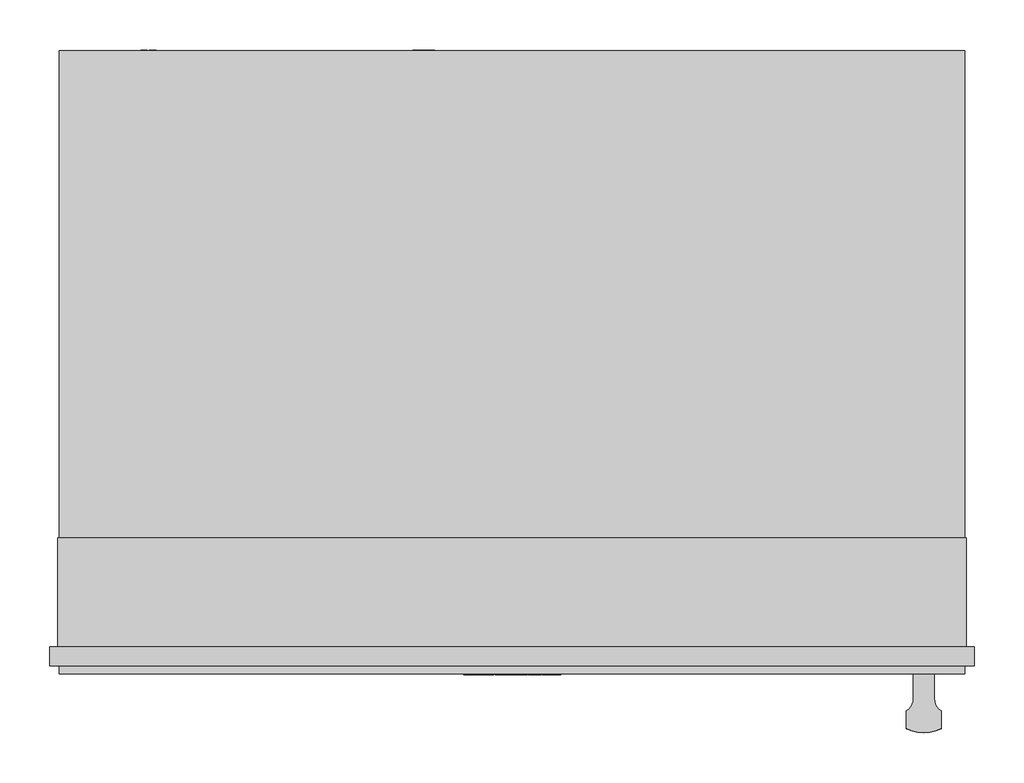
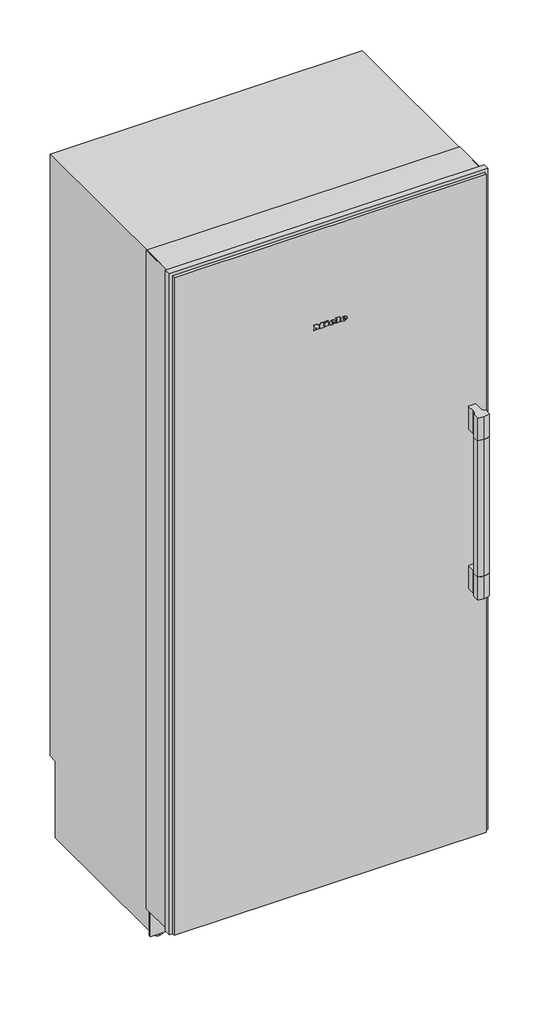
# Not in any storey: 1 proxy.
"""IFC4 building model written with IfcOpenShell, lengths in millimetres."""

import ifcopenshell
import ifcopenshell.guid

model = None  # the IFC model being written
_history = None  # IfcOwnerHistory: only IFC2X3 demands one
_inside = {}  # id of a spatial element -> (the spatial element, [elements in it])
_under = {}  # id of a project, library or spatial element -> (it, [spatial elements below it])
_declared = {}  # id of a project -> (the project, [libraries it declares])
_typed = {}  # id of a type object -> (the type object, [elements of that type])
_made_of = {}  # id of a material, layer set ... -> (it, [elements and type objects made of it])


def new_model(schema):
    """Start an empty IFC model of exactly this schema.

    Asked for "IFC4X3", IfcOpenShell would pick the latest addendum, in which some entities
    have other attributes; the version numbers below select the first issue.
    IFC2X3 requires an IfcOwnerHistory on every rooted entity: one is made here for all.
    """
    global model, _history
    if schema == "IFC4X3":
        model = ifcopenshell.file(schema_version=(4, 3, 0, 0))
    else:
        model = ifcopenshell.file(schema=schema)
    _inside.clear()
    _under.clear()
    _declared.clear()
    _typed.clear()
    _made_of.clear()
    _history = None
    if model.schema == "IFC2X3":
        org = make("IfcOrganization", Name="unknown")
        user = make(
            "IfcPersonAndOrganization",
            ThePerson=make("IfcPerson", FamilyName="unknown"),
            TheOrganization=org,
        )
        app = make(
            "IfcApplication",
            ApplicationDeveloper=org,
            Version="unknown",
            ApplicationFullName="unknown",
            ApplicationIdentifier="unknown",
        )
        _history = make(
            "IfcOwnerHistory",
            OwningUser=user,
            OwningApplication=app,
            ChangeAction="ADDED",
            CreationDate=0,
        )
    return model


def make(cls, **values):
    """One entity of the class cls with the attributes given. An attribute that is None is left unset."""
    return model.create_entity(
        cls, **{name: value for name, value in values.items() if value is not None}
    )


def rooted(cls, **values):
    """An entity with a GlobalId (a new one), such as an element, a storey or a relation."""
    return make(cls, GlobalId=ifcopenshell.guid.new(), OwnerHistory=_history, **values)


def si_unit(unit_type, name, prefix=None):
    """IfcSIUnit, for example si_unit("LENGTHUNIT", "METRE", prefix="MILLI")."""
    return make("IfcSIUnit", UnitType=unit_type, Prefix=prefix, Name=name)


def assignment(units):
    """IfcUnitAssignment: the units of a project."""
    return None if units is None else make("IfcUnitAssignment", Units=units)


def point(xyz):
    """IfcCartesianPoint."""
    return None if xyz is None else make("IfcCartesianPoint", Coordinates=xyz)


def direction(xyz):
    """IfcDirection."""
    return None if xyz is None else make("IfcDirection", DirectionRatios=xyz)


def frame(location, z_axis=None, x_axis=None):
    """IfcAxis2Placement3D, a coordinate frame: its origin and axes. An axis left out is left unset."""
    return make(
        "IfcAxis2Placement3D",
        Location=point(location),
        Axis=direction(z_axis),
        RefDirection=direction(x_axis),
    )


def frame_2d(location, x_axis=None):
    """IfcAxis2Placement2D, a coordinate frame in the plane: its origin and x axis."""
    return make(
        "IfcAxis2Placement2D", Location=point(location), RefDirection=direction(x_axis)
    )


def origin():
    """The frame at (0, 0, 0) with its axes left unset."""
    return frame((0.0, 0.0, 0.0))


def place(relative_to, where):
    """IfcLocalPlacement: puts the frame where relative to a parent placement (None: the world)."""
    return make(
        "IfcLocalPlacement", PlacementRelTo=relative_to, RelativePlacement=where
    )


def context(
    kind, dimensions, precision=None, world=None, true_north=None, identifier=None
):
    """IfcGeometricRepresentationContext, for example the 3D "Model" context."""
    return make(
        "IfcGeometricRepresentationContext",
        ContextIdentifier=identifier,
        ContextType=kind,
        CoordinateSpaceDimension=dimensions,
        Precision=precision,
        WorldCoordinateSystem=world,
        TrueNorth=true_north,
    )


def project(units=None, contexts=None):
    """IfcProject with its units and contexts."""
    return rooted(
        "IfcProject",
        Name="project",
        RepresentationContexts=contexts,
        UnitsInContext=assignment(units),
    )


def spatial(cls, under=None, at=None, **own):
    """A site, building, storey or space (cls), placed at a placement, below another one or the project."""
    s = rooted(cls, ObjectPlacement=at, **own)
    if under is not None:
        _under.setdefault(under.id(), (under, []))[1].append(s)
    return s


def polyline(points):
    """IfcPolyline through the points."""
    return make("IfcPolyline", Points=[point(p) for p in points])


def circle_curve(where, radius):
    """IfcCircle in the frame where."""
    return make("IfcCircle", Position=where, Radius=radius)


def ellipse_curve(where, semi_axis1, semi_axis2):
    """IfcEllipse in the frame where."""
    return make(
        "IfcEllipse", Position=where, SemiAxis1=semi_axis1, SemiAxis2=semi_axis2
    )


def trimmed(basis, trim1, trim2, sense, master):
    """IfcTrimmedCurve: the piece of a basis curve between two trims."""
    return make(
        "IfcTrimmedCurve",
        BasisCurve=basis,
        Trim1=trim1,
        Trim2=trim2,
        SenseAgreement=sense,
        MasterRepresentation=master,
    )


def segment(curve, same_sense, transition):
    """IfcCompositeCurveSegment."""
    return make(
        "IfcCompositeCurveSegment",
        Transition=transition,
        SameSense=same_sense,
        ParentCurve=curve,
    )


def composite_curve(segments, self_intersect=None):
    """IfcCompositeCurve: segments joined end to end."""
    return make("IfcCompositeCurve", Segments=segments, SelfIntersect=self_intersect)


def outline(outer, holes=None, kind="AREA"):
    """IfcArbitraryClosedProfileDef: a profile drawn as a closed curve; with holes, ...WithVoids."""
    if holes is None:
        return make("IfcArbitraryClosedProfileDef", ProfileType=kind, OuterCurve=outer)
    return make(
        "IfcArbitraryProfileDefWithVoids",
        ProfileType=kind,
        OuterCurve=outer,
        InnerCurves=holes,
    )


def extrude(swept, where, along, depth):
    """IfcExtrudedAreaSolid: the profile swept, set in the frame where, extruded along a direction by depth."""
    return make(
        "IfcExtrudedAreaSolid",
        SweptArea=swept,
        Position=where,
        ExtrudedDirection=direction(along),
        Depth=depth,
    )


def faces_of(points, faces, orient=None, outer=None):
    """IfcFace entities. A face is a list of loops; a loop is a list of indices into points, from 0.

    orient and outer hold one flag for each loop. By default every Orientation is true, the
    first loop of a face is its IfcFaceOuterBound and the others are IfcFaceBound.
    """
    made = []
    for i, loops in enumerate(faces):
        bounds = []
        for j, loop in enumerate(loops):
            is_outer = j == 0 if outer is None else outer[i][j]
            bounds.append(
                make(
                    "IfcFaceOuterBound" if is_outer else "IfcFaceBound",
                    Bound=make("IfcPolyLoop", Polygon=[points[k] for k in loop]),
                    Orientation=True if orient is None else orient[i][j],
                )
            )
        made.append(make("IfcFace", Bounds=bounds))
    return made


def faceted_brep(points, faces, orient=None, outer=None, voids=None):
    """IfcFacetedBrep: a solid bounded by flat faces; with voids (closed shells), ...WithVoids."""
    shared = [point(p) for p in points]
    hull = make("IfcClosedShell", CfsFaces=faces_of(shared, faces, orient, outer))
    if voids is None:
        return make("IfcFacetedBrep", Outer=hull)
    return make(
        "IfcFacetedBrepWithVoids",
        Outer=hull,
        Voids=[
            make(cls, CfsFaces=faces_of(shared, fs, o, b)) for cls, fs, o, b in voids
        ],
    )


def shape(context_of_items, identifier, shape_type, items):
    """IfcShapeRepresentation: the items that make up one representation, for example the "Body"."""
    return make(
        "IfcShapeRepresentation",
        ContextOfItems=context_of_items,
        RepresentationIdentifier=identifier,
        RepresentationType=shape_type,
        Items=items,
    )


def source(mapping_origin, context_of_items, identifier, shape_type, items):
    """IfcRepresentationMap: a shape defined once, which mapped items show again and again."""
    return make(
        "IfcRepresentationMap",
        MappingOrigin=mapping_origin,
        MappedRepresentation=shape(context_of_items, identifier, shape_type, items),
    )


def transform(
    local_origin,
    x_axis=None,
    y_axis=None,
    z_axis=None,
    scale=None,
    scale2=None,
    scale3=None,
    uniform=True,
):
    """IfcCartesianTransformationOperator3D, or its non-uniform kind. x_axis, y_axis, z_axis: its Axis1, 2, 3."""
    if uniform:
        return make(
            "IfcCartesianTransformationOperator3D",
            Axis1=direction(x_axis),
            Axis2=direction(y_axis),
            LocalOrigin=point(local_origin),
            Scale=scale,
            Axis3=direction(z_axis),
        )
    return make(
        "IfcCartesianTransformationOperator3DnonUniform",
        Axis1=direction(x_axis),
        Axis2=direction(y_axis),
        LocalOrigin=point(local_origin),
        Scale=scale,
        Axis3=direction(z_axis),
        Scale2=scale2,
        Scale3=scale3,
    )


def mapped(mapping_source, mapping_target):
    """IfcMappedItem: shows the shape of a source again, moved by a transform."""
    return make(
        "IfcMappedItem", MappingSource=mapping_source, MappingTarget=mapping_target
    )


def made_of(thing, what):
    """Note that an element or type object is made of a material, layer set ...; save() writes the relation."""
    if what is not None:
        _made_of.setdefault(what.id(), (what, []))[1].append(thing)
    return thing


def element(
    cls,
    number,
    at=None,
    inside=None,
    cuts=None,
    type_object=None,
    material=None,
    context=None,
    identifier="Body",
    shape_type=None,
    held_by="IfcProductDefinitionShape",
    body=None,
    shapes=None,
    **own,
):
    """One element of the class cls, such as IfcWall. Its Tag is "e" and its number.

    at: its placement. inside: the storey or other place that contains it. cuts: it is an
    opening in that element (IfcRelVoidsElement). A single representation is given by context,
    identifier, shape_type and body (its items); several are given by shapes. held_by: the class
    of the entity that holds the representations. save() writes the other relations.
    """
    e = rooted(cls, Tag="e%d" % number, ObjectPlacement=at, **own)
    if body is not None:
        shapes = [shape(context, identifier, shape_type, body)]
    if shapes is not None:
        e.Representation = make(held_by, Representations=shapes)
    if inside is not None:
        _inside.setdefault(inside.id(), (inside, []))[1].append(e)
    if cuts is not None:
        rooted(
            "IfcRelVoidsElement", RelatingBuildingElement=cuts, RelatedOpeningElement=e
        )
    if type_object is not None:
        _typed.setdefault(type_object.id(), (type_object, []))[1].append(e)
    return made_of(e, material)


def aggregate(whole, parts):
    """IfcRelAggregates: a whole, such as a stair, and the parts it consists of."""
    return rooted("IfcRelAggregates", RelatingObject=whole, RelatedObjects=parts)


def save(model, path):
    """Write the relations noted so far, then the file.

    IfcRelAggregates (storeys below a building ...), IfcRelContainedInSpatialStructure (elements
    in a storey), IfcRelDefinesByType, IfcRelAssociatesMaterial and IfcRelDeclares: one each for
    every whole, place, type object, material and project.
    """
    for whole, parts in _under.values():
        aggregate(whole, parts)
    for where, things in _inside.values():
        rooted(
            "IfcRelContainedInSpatialStructure",
            RelatedElements=things,
            RelatingStructure=where,
        )
    for kind, things in _typed.values():
        rooted("IfcRelDefinesByType", RelatedObjects=things, RelatingType=kind)
    for what, things in _made_of.values():
        rooted("IfcRelAssociatesMaterial", RelatedObjects=things, RelatingMaterial=what)
    for by, libraries in _declared.values():
        rooted("IfcRelDeclares", RelatingContext=by, RelatedDefinitions=libraries)
    model.write(path)


def plane_surface(at):
    """IfcPlane: the flat surface through the origin of the frame at, square to its z axis."""
    return make("IfcPlane", Position=at)


def cylinder_surface(at, radius):
    """IfcCylindricalSurface: all points at the distance radius from the z axis of the frame at."""
    return make("IfcCylindricalSurface", Position=at, Radius=radius)


def revolved_surface(curve, axis_point, axis_direction):
    """IfcSurfaceOfRevolution: the curve turned about the line through axis_point along axis_direction."""
    return make(
        "IfcSurfaceOfRevolution",
        SweptCurve=make("IfcArbitraryOpenProfileDef", ProfileType="CURVE", Curve=curve),
        AxisPosition=make("IfcAxis1Placement", Location=point(axis_point), Axis=direction(axis_direction)),
    )


def extruded_surface(curve, direction_of_extrusion, depth):
    """IfcSurfaceOfLinearExtrusion: the curve pushed along a direction by depth."""
    return make(
        "IfcSurfaceOfLinearExtrusion",
        SweptCurve=make("IfcArbitraryOpenProfileDef", ProfileType="CURVE", Curve=curve),
        ExtrudedDirection=direction(direction_of_extrusion),
        Depth=depth,
    )


def advanced_brep(points, edges, surfaces, faces):
    """IfcAdvancedBrep: a solid bounded by faces that lie on surfaces and meet in shared edges.

    An edge is (start, end): straight between two places in points (the first is 0);
    or (start, end, curve); or (start, end, curve, False) where it runs against its curve.
    A face is (place in surfaces, loops), or (place, loops, False) where it looks against
    its surface's normal. A loop lists edges by number (the first is 1), with a minus sign
    where the edge is run from its end to its start. The first loop is the outer one.
    """
    corners = [point(p) for p in points]
    vertices = [make("IfcVertexPoint", VertexGeometry=c) for c in corners]
    made = []
    for start, end, *more in edges:
        made.append(
            make(
                "IfcEdgeCurve",
                EdgeStart=vertices[start],
                EdgeEnd=vertices[end],
                EdgeGeometry=more[0] if more else make("IfcPolyline", Points=[corners[start], corners[end]]),
                SameSense=more[1] if len(more) > 1 else True,
            )
        )
    hull = []
    for where, loops, *sense in faces:
        bounds = []
        for j, loop in enumerate(loops):
            ring = [make("IfcOrientedEdge", EdgeElement=made[abs(k) - 1], Orientation=k > 0) for k in loop]
            bounds.append(
                make(
                    "IfcFaceOuterBound" if j == 0 else "IfcFaceBound",
                    Bound=make("IfcEdgeLoop", EdgeList=ring),
                    Orientation=True,
                )
            )
        hull.append(make("IfcAdvancedFace", Bounds=bounds, FaceSurface=surfaces[where], SameSense=sense[0] if sense else True))
    return make("IfcAdvancedBrep", Outer=make("IfcClosedShell", CfsFaces=hull))


def specialty_equipment_59125f97(model_context):
    return source(origin(), model_context, "Body", "SolidModel", [
        extrude(outline(polyline([(-443.0, 68.0), (443.0, 68.0), (443.0, 21.0), (-443.0, 21.0), (-443.0, 68.0)])), frame((0.0, 0.0, 265.0), z_axis=(0.0, 0.0, 1.0), x_axis=(1.0, 0.0, 0.0)), (0.0, 0.0, 1.0), 1771.0),
        extrude(outline(polyline([(-289.0, 50.0), (289.0, 50.0), (289.0, 21.0), (-289.0, 21.0), (-289.0, 50.0)])), frame((0.0, 0.0, 2036.0), z_axis=(0.0, 0.0, 1.0), x_axis=(1.0, 0.0, 0.0)), (0.0, 0.0, 1.0), 56.0),
        extrude(outline(polyline([(265.0, 21.0), (265.0, 0.0), (265.0, -21.0), (224.0, -21.0), (224.0, -6.5), (99.0, -6.5), (99.0, 0.0), (99.0, 6.5), (224.0, 6.5), (224.0, 21.0), (265.0, 21.0)])), frame((0.0, 21.0, 0.0), z_axis=(0.0, 1.0, 0.0), x_axis=(0.0, 0.0, 1.0)), (0.0, 0.0, 1.0), 54.0),
        extrude(outline(composite_curve([segment(trimmed(circle_curve(frame_2d((386.9285714, -24.4390599)), 15.5714286), [point((395.5, -37.4390599))], [point((402.5, -24.4390599))], True, "CARTESIAN"), True, "CONTINUOUS"), segment(polyline([(402.5, -24.4390599), (402.5, 0.0), (423.5, 0.0), (423.5, -24.4390599)]), True, "CONTINUOUS"), segment(trimmed(circle_curve(frame_2d((439.0714286, -24.4390599)), 15.5714286), [point((423.5, -24.4390599))], [point((430.5, -37.4390599))], True, "CARTESIAN"), True, "CONTINUOUS"), segment(polyline([(430.5, -37.4390599), (430.5, -55.0)]), True, "CONTINUOUS"), segment(trimmed(circle_curve(frame_2d((413.0, -18.71875)), 40.28125), [point((430.5, -55.0))], [point((413.0, -59.0))], False, "CARTESIAN"), True, "CONTINUOUS"), segment(trimmed(circle_curve(frame_2d((413.0, -18.71875)), 40.28125), [point((413.0, -59.0))], [point((395.5, -55.0))], False, "CARTESIAN"), True, "CONTINUOUS"), segment(polyline([(395.5, -55.0), (395.5, -37.4390599)]), True, "CONTINUOUS")], self_intersect=False)), frame((0.0, 0.0, 858.0), z_axis=(0.0, 0.0, 1.0), x_axis=(1.0, 0.0, 0.0)), (0.0, 0.0, 1.0), 70.0),
        extrude(outline(composite_curve([segment(trimmed(circle_curve(frame_2d((386.9285714, -24.4390599)), 15.5714286), [point((395.5, -37.4390599))], [point((402.5, -24.4390599))], True, "CARTESIAN"), True, "CONTINUOUS"), segment(polyline([(402.5, -24.4390599), (402.5, 0.0), (423.5, 0.0), (423.5, -24.4390599)]), True, "CONTINUOUS"), segment(trimmed(circle_curve(frame_2d((439.0714286, -24.4390599)), 15.5714286), [point((423.5, -24.4390599))], [point((430.5, -37.4390599))], True, "CARTESIAN"), True, "CONTINUOUS"), segment(polyline([(430.5, -37.4390599), (430.5, -55.0)]), True, "CONTINUOUS"), segment(trimmed(circle_curve(frame_2d((413.0, -18.71875)), 40.28125), [point((430.5, -55.0))], [point((413.0, -59.0))], False, "CARTESIAN"), True, "CONTINUOUS"), segment(trimmed(circle_curve(frame_2d((413.0, -18.71875)), 40.28125), [point((413.0, -59.0))], [point((395.5, -55.0))], False, "CARTESIAN"), True, "CONTINUOUS"), segment(polyline([(395.5, -55.0), (395.5, -37.4390599)]), True, "CONTINUOUS")], self_intersect=False)), frame((0.0, 0.0, 1348.0), z_axis=(0.0, 0.0, 1.0), x_axis=(1.0, 0.0, 0.0)), (0.0, 0.0, 1.0), 70.0),
        extrude(outline(composite_curve([segment(trimmed(circle_curve(frame_2d((386.9285714, -24.4390599)), 15.5714286), [point((395.5, -37.4390599))], [point((397.3599688, -36.0))], True, "CARTESIAN"), True, "CONTINUOUS"), segment(polyline([(397.3599688, -36.0), (428.6400312, -36.0)]), True, "CONTINUOUS"), segment(trimmed(circle_curve(frame_2d((439.0714286, -24.4390599)), 15.5714286), [point((428.6400312, -36.0))], [point((430.5, -37.4390599))], True, "CARTESIAN"), True, "CONTINUOUS"), segment(polyline([(430.5, -37.4390599), (430.5, -55.0)]), True, "CONTINUOUS"), segment(trimmed(circle_curve(frame_2d((413.0, -18.71875)), 40.28125), [point((430.5, -55.0))], [point((413.0, -59.0))], False, "CARTESIAN"), True, "CONTINUOUS"), segment(trimmed(circle_curve(frame_2d((413.0, -18.71875)), 40.28125), [point((413.0, -59.0))], [point((395.5, -55.0))], False, "CARTESIAN"), True, "CONTINUOUS"), segment(polyline([(395.5, -55.0), (395.5, -37.4390599)]), True, "CONTINUOUS")], self_intersect=False)), frame((0.0, 0.0, 928.0), z_axis=(0.0, 0.0, 1.0), x_axis=(1.0, 0.0, 0.0)), (0.0, 0.0, 1.0), 420.0),
        extrude(outline(polyline([(-454.0, 21.0), (454.0, 21.0), (454.0, 0.0), (-454.0, 0.0), (-454.0, 21.0)])), frame((0.0, 0.0, 90.0), z_axis=(0.0, 0.0, 1.0), x_axis=(1.0, 0.0, 0.0)), (0.0, 0.0, 1.0), 2023.0),
        advanced_brep(
        [(38.22, -1.0, 1812.792), (38.22, -1.0, 1814.408), (48.924, -1.0, 1814.408), (30.3, -1.0, 1814.408), (34.7, -1.0, 1809.0), (48.652, -1.0, 1812.792), (43.82, -1.0, 1812.792), (40.012, -1.0, 1811.0), (38.22, -1.0, 1816.456), (38.22, -1.0, 1818.2), (40.956, -1.0, 1818.2), (40.956, -1.0, 1816.456), (38.22, 0.0, 1812.792), (40.012, 0.0, 1811.0), (43.82, 0.0, 1812.792), (48.652, 0.0, 1812.792), (34.7, 0.0, 1809.0), (30.3, 0.0, 1814.408), (48.924, 0.0, 1814.408), (38.22, 0.0, 1814.408), (38.22, 0.0, 1816.456), (40.956, 0.0, 1816.456), (40.956, 0.0, 1818.2), (38.22, 0.0, 1818.2)],
        [
            (0, 1),
            (1, 2),
            (2, 3, ellipse_curve(frame((39.612, -1.0, 1814.408), z_axis=(0.0, -1.0, 0.0), x_axis=(-1.0, 0.0, 0.0)), 9.312, 7.696)),
            (3, 4, circle_curve(frame((36.4920873, -1.0, 1814.952), z_axis=(0.0, -1.0, 0.0), x_axis=(0.0, 0.0, -1.0)), 6.2159376)),
            (4, 5, circle_curve(frame((39.4255872, -1.0, 1819.176), z_axis=(0.0, -1.0, 0.0), x_axis=(0.0, 0.0, -1.0)), 11.2197215)),
            (5, 6),
            (6, 7, circle_curve(frame((40.7941176, -1.0, 1814.28), z_axis=(0.0, 1.0, 0.0), x_axis=(0.0, 0.0, -1.0)), 3.3719591)),
            (7, 0, circle_curve(frame((40.012, -1.0, 1812.792), z_axis=(0.0, 1.0, 0.0), x_axis=(0.0, 0.0, -1.0)), 1.792)),
            (8, 9),
            (9, 10, circle_curve(frame((39.588, -1.0, 1818.2), z_axis=(0.0, 1.0, 0.0), x_axis=(0.0, 0.0, -1.0)), 1.368)),
            (10, 11),
            (11, 8),
            (12, 13, circle_curve(frame((40.012, 0.0, 1812.792), z_axis=(0.0, -1.0, 0.0), x_axis=(0.0, 0.0, -1.0)), 1.792)),
            (13, 14, circle_curve(frame((40.7941176, 0.0, 1814.28), z_axis=(0.0, -1.0, 0.0), x_axis=(0.0, 0.0, -1.0)), 3.3719591)),
            (14, 15),
            (15, 16, circle_curve(frame((39.4255872, 0.0, 1819.176), z_axis=(0.0, 1.0, 0.0), x_axis=(0.0, 0.0, -1.0)), 11.2197215)),
            (16, 17, circle_curve(frame((36.4920873, 0.0, 1814.952), z_axis=(0.0, 1.0, 0.0), x_axis=(0.0, 0.0, -1.0)), 6.2159376)),
            (17, 18, ellipse_curve(frame((39.612, 0.0, 1814.408), z_axis=(0.0, 1.0, 0.0), x_axis=(-1.0, 0.0, 0.0)), 9.312, 7.696)),
            (18, 19),
            (19, 12),
            (20, 21),
            (21, 22),
            (22, 23, circle_curve(frame((39.588, 0.0, 1818.2), z_axis=(0.0, -1.0, 0.0), x_axis=(0.0, 0.0, -1.0)), 1.368)),
            (23, 20),
            (0, 12),
            (19, 1),
            (18, 2),
            (5, 15),
            (14, 6),
            (17, 3),
            (13, 7),
            (16, 4),
            (8, 20),
            (23, 9),
            (22, 10),
            (21, 11),
        ],
        [
            plane_surface(frame((38.22, -1.0, 1814.408), z_axis=(0.0, -1.0, 0.0), x_axis=(0.0, 0.0, 1.0))),
            plane_surface(frame((38.22, 0.0, 1814.408), z_axis=(0.0, 1.0, 0.0), x_axis=(0.0, 0.0, -1.0))),
            plane_surface(frame((38.22, -1.0, 1812.792), z_axis=(1.0, 0.0, 0.0), x_axis=(0.0, 1.0, 0.0))),
            plane_surface(frame((38.22, -1.0, 1814.408), z_axis=(0.0, 0.0, -1.0), x_axis=(0.0, 1.0, 0.0))),
            plane_surface(frame((48.652, -1.0, 1812.792), z_axis=(0.0, 0.0, 1.0), x_axis=(0.0, 1.0, 0.0))),
            extruded_surface(trimmed(ellipse_curve(frame((39.612, 1.0, 1814.408), z_axis=(0.0, -1.0, 0.0), x_axis=(-1.0, 0.0, 0.0)), 9.312, 7.696), [point((48.924, 1.0, 1814.408))], [point((30.3, 1.0, 1814.408))], True, "CARTESIAN"), (0.0, -1.0, 0.0), 1.0),
            revolved_surface(polyline([(40.7941176, 0.0, 1810.9080409), (40.7941176, -1.0, 1810.9080409)]), (40.7941176, 0.0, 1814.28), (0.0, 1.0, 0.0)),
            revolved_surface(polyline([(40.012, 0.0, 1811.0), (40.012, -1.0, 1811.0)]), (40.012, 0.0, 1812.792), (0.0, 1.0, 0.0)),
            cylinder_surface(frame((36.4920873, 0.0, 1814.952), z_axis=(0.0, -1.0, 0.0), x_axis=(0.0, 0.0, -1.0)), 6.2159376),
            cylinder_surface(frame((39.4255872, 0.0, 1819.176), z_axis=(0.0, -1.0, 0.0), x_axis=(0.0, 0.0, -1.0)), 11.2197215),
            plane_surface(frame((38.22, -1.0, 1816.456), z_axis=(1.0, 0.0, 0.0), x_axis=(0.0, 1.0, 0.0))),
            revolved_surface(polyline([(39.588, 0.0, 1816.832), (39.588, -1.0, 1816.832)]), (39.588, 0.0, 1818.2), (0.0, 1.0, 0.0)),
            plane_surface(frame((40.956, -1.0, 1818.2), z_axis=(-1.0, 0.0, 0.0), x_axis=(0.0, 1.0, 0.0))),
            plane_surface(frame((40.956, -1.0, 1816.456), z_axis=(0.0, 0.0, 1.0), x_axis=(0.0, 1.0, 0.0))),
        ],
        [
            (0, [[1, 2, 3, 4, 5, 6, 7, 8], [9, 10, 11, 12]]),
            (1, [[13, 14, 15, 16, 17, 18, 19, 20], [21, 22, 23, 24]]),
            (2, [[-1, 25, -20, 26]]),
            (3, [[-2, -26, -19, 27]]),
            (4, [[-6, 28, -15, 29]]),
            (5, [[-3, -27, -18, 30]]),
            (6, [[-7, -29, -14, 31]]),
            (7, [[-8, -31, -13, -25]]),
            (8, [[-4, -30, -17, 32]]),
            (9, [[-5, -32, -16, -28]]),
            (10, [[-9, 33, -24, 34]]),
            (11, [[-10, -34, -23, 35]]),
            (12, [[-11, -35, -22, 36]]),
            (13, [[-12, -36, -21, -33]]),
        ],
    ),
        advanced_brep(
        [(4.828, -1.0, 1812.792), (4.828, -1.0, 1814.408), (15.532, -1.0, 1814.408), (-3.092, -1.0, 1814.408), (1.308, -1.0, 1809.0), (15.26, -1.0, 1812.792), (10.428, -1.0, 1812.792), (6.62, -1.0, 1811.0), (4.828, -1.0, 1816.456), (4.828, -1.0, 1818.2), (7.564, -1.0, 1818.2), (7.564, -1.0, 1816.456), (4.828, 0.0, 1812.792), (6.62, 0.0, 1811.0), (10.428, 0.0, 1812.792), (15.26, 0.0, 1812.792), (1.308, 0.0, 1809.0), (-3.092, 0.0, 1814.408), (15.532, 0.0, 1814.408), (4.828, 0.0, 1814.408), (4.828, 0.0, 1816.456), (7.564, 0.0, 1816.456), (7.564, 0.0, 1818.2), (4.828, 0.0, 1818.2)],
        [
            (0, 1),
            (1, 2),
            (2, 3, ellipse_curve(frame((6.22, -1.0, 1814.408), z_axis=(0.0, -1.0, 0.0), x_axis=(-1.0, 0.0, 0.0)), 9.312, 7.696)),
            (3, 4, circle_curve(frame((3.1000873, -1.0, 1814.952), z_axis=(0.0, -1.0, 0.0), x_axis=(0.0, 0.0, -1.0)), 6.2159376)),
            (4, 5, circle_curve(frame((6.0335872, -1.0, 1819.176), z_axis=(0.0, -1.0, 0.0), x_axis=(0.0, 0.0, -1.0)), 11.2197215)),
            (5, 6),
            (6, 7, circle_curve(frame((7.4021176, -1.0, 1814.28), z_axis=(0.0, 1.0, 0.0), x_axis=(0.0, 0.0, -1.0)), 3.3719591)),
            (7, 0, circle_curve(frame((6.62, -1.0, 1812.792), z_axis=(0.0, 1.0, 0.0), x_axis=(0.0, 0.0, -1.0)), 1.792)),
            (8, 9),
            (9, 10, circle_curve(frame((6.196, -1.0, 1818.2), z_axis=(0.0, 1.0, 0.0), x_axis=(0.0, 0.0, -1.0)), 1.368)),
            (10, 11),
            (11, 8),
            (12, 13, circle_curve(frame((6.62, 0.0, 1812.792), z_axis=(0.0, -1.0, 0.0), x_axis=(0.0, 0.0, -1.0)), 1.792)),
            (13, 14, circle_curve(frame((7.4021176, 0.0, 1814.28), z_axis=(0.0, -1.0, 0.0), x_axis=(0.0, 0.0, -1.0)), 3.3719591)),
            (14, 15),
            (15, 16, circle_curve(frame((6.0335872, 0.0, 1819.176), z_axis=(0.0, 1.0, 0.0), x_axis=(0.0, 0.0, -1.0)), 11.2197215)),
            (16, 17, circle_curve(frame((3.1000873, 0.0, 1814.952), z_axis=(0.0, 1.0, 0.0), x_axis=(0.0, 0.0, -1.0)), 6.2159376)),
            (17, 18, ellipse_curve(frame((6.22, 0.0, 1814.408), z_axis=(0.0, 1.0, 0.0), x_axis=(-1.0, 0.0, 0.0)), 9.312, 7.696)),
            (18, 19),
            (19, 12),
            (20, 21),
            (21, 22),
            (22, 23, circle_curve(frame((6.196, 0.0, 1818.2), z_axis=(0.0, -1.0, 0.0), x_axis=(0.0, 0.0, -1.0)), 1.368)),
            (23, 20),
            (0, 12),
            (19, 1),
            (18, 2),
            (5, 15),
            (14, 6),
            (17, 3),
            (13, 7),
            (16, 4),
            (8, 20),
            (23, 9),
            (22, 10),
            (21, 11),
        ],
        [
            plane_surface(frame((4.828, -1.0, 1814.408), z_axis=(0.0, -1.0, 0.0), x_axis=(0.0, 0.0, 1.0))),
            plane_surface(frame((4.828, 0.0, 1814.408), z_axis=(0.0, 1.0, 0.0), x_axis=(0.0, 0.0, -1.0))),
            plane_surface(frame((4.828, -1.0, 1812.792), z_axis=(1.0, 0.0, 0.0), x_axis=(0.0, 1.0, 0.0))),
            plane_surface(frame((4.828, -1.0, 1814.408), z_axis=(0.0, 0.0, -1.0), x_axis=(0.0, 1.0, 0.0))),
            plane_surface(frame((15.26, -1.0, 1812.792), z_axis=(0.0, 0.0, 1.0), x_axis=(0.0, 1.0, 0.0))),
            extruded_surface(trimmed(ellipse_curve(frame((6.22, 1.0, 1814.408), z_axis=(0.0, -1.0, 0.0), x_axis=(-1.0, 0.0, 0.0)), 9.312, 7.696), [point((15.532, 1.0, 1814.408))], [point((-3.092, 1.0, 1814.408))], True, "CARTESIAN"), (0.0, -1.0, 0.0), 1.0),
            revolved_surface(polyline([(7.4021176, 0.0, 1810.9080409), (7.4021176, -1.0, 1810.9080409)]), (7.4021176, 0.0, 1814.28), (0.0, 1.0, 0.0)),
            revolved_surface(polyline([(6.62, 0.0, 1811.0), (6.62, -1.0, 1811.0)]), (6.62, 0.0, 1812.792), (0.0, 1.0, 0.0)),
            cylinder_surface(frame((3.1000873, 0.0, 1814.952), z_axis=(0.0, -1.0, 0.0), x_axis=(0.0, 0.0, -1.0)), 6.2159376),
            cylinder_surface(frame((6.0335872, 0.0, 1819.176), z_axis=(0.0, -1.0, 0.0), x_axis=(0.0, 0.0, -1.0)), 11.2197215),
            plane_surface(frame((4.828, -1.0, 1816.456), z_axis=(1.0, 0.0, 0.0), x_axis=(0.0, 1.0, 0.0))),
            revolved_surface(polyline([(6.196, 0.0, 1816.832), (6.196, -1.0, 1816.832)]), (6.196, 0.0, 1818.2), (0.0, 1.0, 0.0)),
            plane_surface(frame((7.564, -1.0, 1818.2), z_axis=(-1.0, 0.0, 0.0), x_axis=(0.0, 1.0, 0.0))),
            plane_surface(frame((7.564, -1.0, 1816.456), z_axis=(0.0, 0.0, 1.0), x_axis=(0.0, 1.0, 0.0))),
        ],
        [
            (0, [[1, 2, 3, 4, 5, 6, 7, 8], [9, 10, 11, 12]]),
            (1, [[13, 14, 15, 16, 17, 18, 19, 20], [21, 22, 23, 24]]),
            (2, [[-1, 25, -20, 26]]),
            (3, [[-2, -26, -19, 27]]),
            (4, [[-6, 28, -15, 29]]),
            (5, [[-3, -27, -18, 30]]),
            (6, [[-7, -29, -14, 31]]),
            (7, [[-8, -31, -13, -25]]),
            (8, [[-4, -30, -17, 32]]),
            (9, [[-5, -32, -16, -28]]),
            (10, [[-9, 33, -24, 34]]),
            (11, [[-10, -34, -23, 35]]),
            (12, [[-11, -35, -22, 36]]),
            (13, [[-12, -36, -21, -33]]),
        ],
    ),
        extrude(outline(polyline([(1824.056, -12.66), (1821.464, -11.444), (1823.992, -6.02), (1826.584, -7.22), (1824.056, -12.66)])), frame((0.0, -1.0, 0.0), z_axis=(0.0, 1.0, 0.0), x_axis=(0.0, 0.0, 1.0)), (0.0, 0.0, 1.0), 1.0),
        extrude(outline(polyline([(1821.112, -16.612), (1818.248, -16.612), (1818.248, -14.708), (1811.688, -14.708), (1811.688, -16.612), (1809.0, -16.612), (1809.0, -3.988), (1811.688, -3.988), (1811.688, -5.844), (1821.112, -5.844), (1821.112, -16.612)])), frame((0.0, -1.0, 0.0), z_axis=(0.0, 1.0, 0.0), x_axis=(0.0, 0.0, 1.0)), (0.0, 0.0, 1.0), 1.0),
        extrude(outline(polyline([(1822.392, 16.428), (1822.392, 18.348), (1811.688, 18.348), (1811.688, 16.428), (1809.0, 16.428), (1809.0, 29.404), (1811.688, 29.404), (1811.688, 27.436), (1825.0, 27.436), (1825.0, 16.428), (1822.392, 16.428)])), frame((0.0, -1.0, 0.0), z_axis=(0.0, 1.0, 0.0), x_axis=(0.0, 0.0, 1.0)), (0.0, 0.0, 1.0), 1.0),
        extrude(outline(polyline([(1822.392, -48.5), (1822.392, -46.564), (1811.688, -46.564), (1811.688, -48.5), (1809.0, -48.5), (1809.0, -41.46), (1811.688, -41.46), (1811.688, -43.38), (1818.4431247, -43.38), (1809.0, -36.228), (1818.8152223, -29.044), (1811.688, -29.044), (1811.688, -31.012), (1809.0, -31.012), (1809.0, -18.244), (1811.688, -18.244), (1811.688, -20.276), (1822.392, -20.276), (1822.392, -18.244), (1825.0, -18.244), (1825.0, -27.988), (1819.0, -32.66), (1825.0, -37.348), (1825.0, -48.5), (1822.392, -48.5)])), frame((0.0, -1.0, 0.0), z_axis=(0.0, 1.0, 0.0), x_axis=(0.0, 0.0, 1.0)), (0.0, 0.0, 1.0), 1.0),
        extrude(outline(polyline([(540.0, 1998.0), (540.0, 1791.0), (471.0, 1791.0), (443.0, 1867.0), (222.7448904, 1867.0), (178.0, 1939.0), (108.0, 1949.0), (108.0, 1998.0), (540.0, 1998.0)])), frame((-408.0, 0.0, 0.0), z_axis=(1.0, 0.0, 0.0), x_axis=(0.0, 1.0, 0.0)), (0.0, 0.0, 1.0), 816.0),
        extrude(outline(polyline([(217.9886114, 1875.0), (216.809433, 1875.0), (179.6921935, 1934.4), (180.8713719, 1934.4), (217.9886114, 1875.0)])), frame((-69.0, 0.0, 0.0), z_axis=(1.0, 0.0, 0.0), x_axis=(0.0, 1.0, 0.0)), (0.0, 0.0, 1.0), 138.0),
        extrude(outline(polyline([(46.0510837, -87.101717), (37.4134902, -89.1745179), (46.0453554, -91.6868463), (46.0453554, -93.5601414), (37.4089549, -96.0799633), (46.0493903, -98.1581876), (46.0493903, -99.4649805), (36.0005458, -96.7156324), (36.0005458, -95.372208), (44.8261022, -92.6342221), (35.9987467, -90.0620509), (35.9987287, -88.5451466), (46.0510837, -85.800191), (46.0510837, -87.101717)])), frame((0.0, 625.0, 0.0), z_axis=(0.0, 1.0, 0.0), x_axis=(0.0, 0.0, 1.0)), (0.0, 0.0, 1.0), 1.0),
        extrude(outline(polyline([(46.0485238, -78.7401503), (41.1363122, -78.7401503), (46.0468162, -83.884602), (46.0468162, -85.6328316), (41.9156889, -81.3260313), (36.000035, -85.8032231), (36.000035, -84.2795519), (41.0742849, -80.4391666), (39.4525334, -78.7395503), (35.9999292, -78.7395503), (35.9999292, -77.4795491), (46.0485238, -77.4795491), (46.0485238, -78.7401503)])), frame((0.0, 625.0, 0.0), z_axis=(0.0, 1.0, 0.0), x_axis=(0.0, 0.0, 1.0)), (0.0, 0.0, 1.0), 1.0),
        extrude(outline(composite_curve([segment(trimmed(circle_curve(frame_2d((41.0, -88.0)), 7.5), [point((33.5, -88.0))], [point((48.5, -88.0))], False, "CARTESIAN"), True, "CONTINUOUS"), segment(trimmed(circle_curve(frame_2d((41.0, -88.0)), 7.5), [point((48.5, -88.0))], [point((33.5, -88.0))], False, "CARTESIAN"), True, "CONTINUOUS")], self_intersect=False)), frame((0.0, 598.0, 0.0), z_axis=(0.0, 1.0, 0.0), x_axis=(0.0, 0.0, 1.0)), (0.0, 0.0, 1.0), 27.0),
        extrude(outline(polyline([(2095.0, -447.5), (2047.0, -447.5), (2047.0, -413.5), (2036.5, -413.5), (2036.5, -298.5), (2047.0, -298.5), (2047.0, -292.5), (2095.0, -292.5), (2095.0, -447.5)])), frame((0.0, 21.0, 0.0), z_axis=(0.0, 1.0, 0.0), x_axis=(0.0, 0.0, 1.0)), (0.0, 0.0, 1.0), 47.0),
        extrude(outline(polyline([(254.0, -447.5), (206.0, -447.5), (206.0, -292.5), (254.0, -292.5), (254.0, -298.5), (264.0, -298.5), (264.0, -413.5), (254.0, -413.5), (254.0, -447.5)])), frame((0.0, 21.0, 0.0), z_axis=(0.0, 1.0, 0.0), x_axis=(0.0, 0.0, 1.0)), (0.0, 0.0, 1.0), 54.0),
        extrude(outline(polyline([(99.0373308, -363.7645771), (97.7615342, -363.7645771), (97.7615342, -357.8195541), (94.7968516, -357.8195541), (94.7968516, -363.469579), (93.5246295, -363.469579), (93.5246295, -357.8415693), (90.2570046, -357.8415693), (90.2570046, -363.9619689), (88.9546219, -363.9619689), (88.9546219, -356.5443524), (99.0373308, -356.5443524), (99.0373308, -363.7645771)])), frame((0.0, 625.0, 0.0), z_axis=(0.0, 1.0, 0.0), x_axis=(0.0, 0.0, 1.0)), (0.0, 0.0, 1.0), 1.0),
        extrude(outline(polyline([(99.0458, -367.0619704), (90.2663944, -367.0619704), (90.2663944, -372.1145879), (89.0134802, -372.1145879), (89.0134802, -365.8423809), (99.0458, -365.8423809), (99.0458, -367.0619704)])), frame((0.0, 625.0, 0.0), z_axis=(0.0, 1.0, 0.0), x_axis=(0.0, 0.0, 1.0)), (0.0, 0.0, 1.0), 1.0),
        extrude(outline(composite_curve([segment(trimmed(circle_curve(frame_2d((94.0, -364.0)), 7.5), [point((86.5, -364.0))], [point((101.5, -364.0))], False, "CARTESIAN"), True, "CONTINUOUS"), segment(trimmed(circle_curve(frame_2d((94.0, -364.0)), 7.5), [point((101.5, -364.0))], [point((86.5, -364.0))], False, "CARTESIAN"), True, "CONTINUOUS")], self_intersect=False)), frame((0.0, 598.0, 0.0), z_axis=(0.0, 1.0, 0.0), x_axis=(0.0, 0.0, 1.0)), (0.0, 0.0, 1.0), 27.0),
        extrude(outline(polyline([(-454.0, 125.0), (454.0, 125.0), (454.0, 120.0), (-454.0, 120.0), (-454.0, 125.0)])), frame((0.0, 0.0, 14.0), z_axis=(0.0, 0.0, 1.0), x_axis=(1.0, 0.0, 0.0)), (0.0, 0.0, 1.0), 83.0),
        advanced_brep(
        [(-420.0, 160.0, 0.0), (-420.0, 130.0, 0.0), (-420.0, 160.0, 7.0), (-420.0, 130.0, 7.0), (-420.0, 149.7, 7.0), (-420.0, 140.3, 7.0), (-420.0, 149.7, 28.0), (-420.0, 140.3, 28.0)],
        [
            (0, 1, circle_curve(frame((-420.0, 145.0, 0.0), z_axis=(0.0, 0.0, -1.0), x_axis=(1.0, 0.0, 0.0)), 15.0)),
            (1, 0, circle_curve(frame((-420.0, 145.0, 0.0), z_axis=(0.0, 0.0, -1.0), x_axis=(1.0, 0.0, 0.0)), 15.0)),
            (2, 3, circle_curve(frame((-420.0, 145.0, 7.0), z_axis=(0.0, 0.0, 1.0), x_axis=(1.0, 0.0, 0.0)), 15.0)),
            (3, 2, circle_curve(frame((-420.0, 145.0, 7.0), z_axis=(0.0, 0.0, 1.0), x_axis=(1.0, 0.0, 0.0)), 15.0)),
            (4, 5, circle_curve(frame((-420.0, 145.0, 7.0), z_axis=(0.0, 0.0, -1.0), x_axis=(0.0, -1.0, 0.0)), 4.7)),
            (5, 4, circle_curve(frame((-420.0, 145.0, 7.0), z_axis=(0.0, 0.0, -1.0), x_axis=(0.0, -1.0, 0.0)), 4.7)),
            (0, 2),
            (3, 1),
            (6, 7, circle_curve(frame((-420.0, 145.0, 28.0), z_axis=(0.0, 0.0, 1.0), x_axis=(0.0, -1.0, 0.0)), 4.7)),
            (7, 6, circle_curve(frame((-420.0, 145.0, 28.0), z_axis=(0.0, 0.0, 1.0), x_axis=(0.0, -1.0, 0.0)), 4.7)),
            (7, 5),
            (4, 6),
        ],
        [
            plane_surface(frame((-405.0, 145.0, 0.0), z_axis=(0.0, 0.0, -1.0), x_axis=(0.0, -1.0, 0.0))),
            plane_surface(frame((-405.0, 145.0, 7.0), z_axis=(0.0, 0.0, 1.0), x_axis=(0.0, 1.0, 0.0))),
            cylinder_surface(frame((-420.0, 145.0, 7.0), z_axis=(0.0, 0.0, -1.0), x_axis=(1.0, 0.0, 0.0)), 15.0),
            plane_surface(frame((-420.0, 140.3, 28.0), z_axis=(0.0, 0.0, 1.0), x_axis=(1.0, 0.0, 0.0))),
            cylinder_surface(frame((-420.0, 145.0, 28.0), z_axis=(0.0, 0.0, -1.0), x_axis=(0.0, -1.0, 0.0)), 4.7),
        ],
        [
            (0, [[1, 2]]),
            (1, [[3, 4], [5, 6]]),
            (2, [[-1, 7, -4, 8]]),
            (2, [[-2, -8, -3, -7]]),
            (3, [[9, 10]]),
            (4, [[-10, 11, -5, 12]]),
            (4, [[-9, -12, -6, -11]]),
        ],
    ),
        advanced_brep(
        [(420.0, 160.0, 0.0), (420.0, 130.0, 0.0), (420.0, 160.0, 7.0), (420.0, 130.0, 7.0), (420.0, 149.7, 7.0), (420.0, 140.3, 7.0), (420.0, 149.7, 28.0), (420.0, 140.3, 28.0)],
        [
            (0, 1, circle_curve(frame((420.0, 145.0, 0.0), z_axis=(0.0, 0.0, -1.0), x_axis=(1.0, 0.0, 0.0)), 15.0)),
            (1, 0, circle_curve(frame((420.0, 145.0, 0.0), z_axis=(0.0, 0.0, -1.0), x_axis=(1.0, 0.0, 0.0)), 15.0)),
            (2, 3, circle_curve(frame((420.0, 145.0, 7.0), z_axis=(0.0, 0.0, 1.0), x_axis=(1.0, 0.0, 0.0)), 15.0)),
            (3, 2, circle_curve(frame((420.0, 145.0, 7.0), z_axis=(0.0, 0.0, 1.0), x_axis=(1.0, 0.0, 0.0)), 15.0)),
            (4, 5, circle_curve(frame((420.0, 145.0, 7.0), z_axis=(0.0, 0.0, -1.0), x_axis=(0.0, -1.0, 0.0)), 4.7)),
            (5, 4, circle_curve(frame((420.0, 145.0, 7.0), z_axis=(0.0, 0.0, -1.0), x_axis=(0.0, -1.0, 0.0)), 4.7)),
            (0, 2),
            (3, 1),
            (6, 7, circle_curve(frame((420.0, 145.0, 28.0), z_axis=(0.0, 0.0, 1.0), x_axis=(0.0, -1.0, 0.0)), 4.7)),
            (7, 6, circle_curve(frame((420.0, 145.0, 28.0), z_axis=(0.0, 0.0, 1.0), x_axis=(0.0, -1.0, 0.0)), 4.7)),
            (7, 5),
            (4, 6),
        ],
        [
            plane_surface(frame((-405.0, 145.0, 0.0), z_axis=(0.0, 0.0, -1.0), x_axis=(0.0, -1.0, 0.0))),
            plane_surface(frame((-405.0, 145.0, 7.0), z_axis=(0.0, 0.0, 1.0), x_axis=(0.0, 1.0, 0.0))),
            cylinder_surface(frame((420.0, 145.0, 7.0), z_axis=(0.0, 0.0, -1.0), x_axis=(1.0, 0.0, 0.0)), 15.0),
            plane_surface(frame((-420.0, 140.3, 28.0), z_axis=(0.0, 0.0, 1.0), x_axis=(1.0, 0.0, 0.0))),
            cylinder_surface(frame((420.0, 145.0, 28.0), z_axis=(0.0, 0.0, -1.0), x_axis=(0.0, -1.0, 0.0)), 4.7),
        ],
        [
            (0, [[1, 2]]),
            (1, [[3, 4], [5, 6]]),
            (2, [[-1, 7, -4, 8]]),
            (2, [[-2, -8, -3, -7]]),
            (3, [[9, 10]]),
            (4, [[-10, 11, -5, 12]]),
            (4, [[-9, -12, -6, -11]]),
        ],
    ),
        advanced_brep(
        [(454.0, 68.0, 2114.0), (454.0, 68.0, 267.0), (454.0, 75.0, 267.0), (454.0, 75.0, 97.0), (454.0, 125.0, 97.0), (454.0, 125.0, 28.0), (454.0, 598.0, 28.0), (454.0, 598.0, 263.0), (454.0, 625.0, 263.0), (454.0, 625.0, 2114.0), (-454.0, 68.0, 2114.0), (-454.0, 625.0, 2114.0), (-454.0, 625.0, 263.0), (-454.0, 598.0, 263.0), (-454.0, 598.0, 28.0), (-454.0, 125.0, 28.0), (-454.0, 125.0, 97.0), (-454.0, 75.0, 97.0), (-454.0, 75.0, 267.0), (-454.0, 68.0, 267.0), (394.0, 598.0, 28.0), (394.0, 598.0, 14.0), (-394.0, 598.0, 14.0), (-394.0, 598.0, 28.0), (394.0, 125.0, 14.0), (-394.0, 125.0, 14.0), (-394.0, 125.0, 28.0), (394.0, 125.0, 28.0), (408.0, 68.0, 1998.0), (408.0, 68.0, 343.0), (-408.0, 68.0, 343.0), (-408.0, 68.0, 1998.0), (408.0, 540.0, 1998.0), (-408.0, 540.0, 1998.0), (-408.0, 540.0, 343.0), (408.0, 540.0, 343.0), (-412.5, 223.8193473, 28.0), (-431.5, 223.8193473, 28.0), (-431.5, 174.1806527, 28.0), (-412.5, 174.1806527, 28.0), (-432.0, 546.8193473, 28.0), (-432.0, 497.1806527, 28.0), (-416.0, 497.1806527, 28.0), (-416.0, 546.8193473, 28.0), (431.5, 174.1806527, 28.0), (431.5, 223.8193473, 28.0), (412.5, 223.8193473, 28.0), (412.5, 174.1806527, 28.0), (416.0, 546.8193473, 28.0), (416.0, 497.1806527, 28.0), (432.0, 497.1806527, 28.0), (432.0, 546.8193473, 28.0), (-412.5, 224.0, 25.0), (-412.5, 174.0, 25.0), (-431.5, 174.0, 25.0), (-431.5, 224.0, 25.0), (-412.5, 199.0, 25.0), (-431.5, 199.0, 25.0), (431.5, 199.0, 25.0), (431.5, 174.0, 25.0), (431.5, 224.0, 25.0), (412.5, 224.0, 25.0), (412.5, 174.0, 25.0), (412.5, 199.0, 25.0), (-432.0, 547.0, 25.0), (-432.0, 497.0, 25.0), (-432.0, 522.0, 25.0), (-416.0, 547.0, 25.0), (-416.0, 497.0, 25.0), (-416.0, 522.0, 25.0), (416.0, 547.0, 25.0), (416.0, 497.0, 25.0), (416.0, 522.0, 25.0), (432.0, 547.0, 25.0), (432.0, 497.0, 25.0), (432.0, 522.0, 25.0)],
        [
            (0, 1),
            (1, 2),
            (2, 3),
            (3, 4),
            (4, 5),
            (5, 6),
            (6, 7),
            (7, 8),
            (8, 9),
            (9, 0),
            (10, 11),
            (11, 12),
            (12, 13),
            (13, 14),
            (14, 15),
            (15, 16),
            (16, 17),
            (17, 18),
            (18, 19),
            (19, 10),
            (9, 11),
            (10, 0),
            (8, 12),
            (7, 13),
            (6, 20),
            (20, 21),
            (21, 22),
            (22, 23),
            (23, 14),
            (21, 24),
            (24, 25),
            (25, 22),
            (4, 16),
            (15, 26),
            (26, 25),
            (24, 27),
            (27, 5),
            (3, 17),
            (2, 18),
            (1, 19),
            (28, 29),
            (29, 30),
            (30, 31),
            (31, 28),
            (32, 33),
            (33, 34),
            (34, 35),
            (35, 32),
            (35, 29),
            (28, 32),
            (34, 30),
            (33, 31),
            (23, 26),
            (36, 37),
            (37, 38),
            (38, 39),
            (39, 36),
            (40, 41),
            (41, 42),
            (42, 43),
            (43, 40),
            (27, 20),
            (44, 45),
            (45, 46),
            (46, 47),
            (47, 44),
            (48, 49),
            (49, 50),
            (50, 51),
            (51, 48),
            (52, 53, circle_curve(frame((-412.5, 199.0, 25.0), z_axis=(-1.0, 0.0, 0.0), x_axis=(0.0, -1.0, 0.0)), 25.0)),
            (53, 54),
            (54, 55, circle_curve(frame((-431.5, 199.0, 25.0), z_axis=(1.0, 0.0, 0.0), x_axis=(0.0, -1.0, 0.0)), 25.0)),
            (55, 52),
            (53, 39, circle_curve(frame((-412.5, 199.0, 25.0), z_axis=(-1.0, 0.0, 0.0), x_axis=(0.0, -1.0, 0.0)), 25.0)),
            (38, 54, circle_curve(frame((-431.5, 199.0, 25.0), z_axis=(1.0, 0.0, 0.0), x_axis=(0.0, -1.0, 0.0)), 25.0)),
            (55, 37, circle_curve(frame((-431.5, 199.0, 25.0), z_axis=(1.0, 0.0, 0.0), x_axis=(0.0, -1.0, 0.0)), 25.0)),
            (36, 52, circle_curve(frame((-412.5, 199.0, 25.0), z_axis=(-1.0, 0.0, 0.0), x_axis=(0.0, -1.0, 0.0)), 25.0)),
            (52, 56),
            (56, 53),
            (54, 57),
            (57, 55),
            (58, 59),
            (59, 60, circle_curve(frame((431.5, 199.0, 25.0), z_axis=(1.0, 0.0, 0.0), x_axis=(0.0, -1.0, 0.0)), 25.0)),
            (60, 58),
            (60, 45, circle_curve(frame((431.5, 199.0, 25.0), z_axis=(1.0, 0.0, 0.0), x_axis=(0.0, -1.0, 0.0)), 25.0)),
            (44, 59, circle_curve(frame((431.5, 199.0, 25.0), z_axis=(1.0, 0.0, 0.0), x_axis=(0.0, -1.0, 0.0)), 25.0)),
            (61, 62, circle_curve(frame((412.5, 199.0, 25.0), z_axis=(-1.0, 0.0, 0.0), x_axis=(0.0, -1.0, 0.0)), 25.0)),
            (62, 63),
            (63, 61),
            (62, 47, circle_curve(frame((412.5, 199.0, 25.0), z_axis=(-1.0, 0.0, 0.0), x_axis=(0.0, -1.0, 0.0)), 25.0)),
            (46, 61, circle_curve(frame((412.5, 199.0, 25.0), z_axis=(-1.0, 0.0, 0.0), x_axis=(0.0, -1.0, 0.0)), 25.0)),
            (64, 65, circle_curve(frame((-432.0, 522.0, 25.0), z_axis=(-1.0, 0.0, 0.0), x_axis=(0.0, -1.0, 0.0)), 25.0)),
            (65, 66),
            (66, 64),
            (65, 41, circle_curve(frame((-432.0, 522.0, 25.0), z_axis=(-1.0, 0.0, 0.0), x_axis=(0.0, -1.0, 0.0)), 25.0)),
            (40, 64, circle_curve(frame((-432.0, 522.0, 25.0), z_axis=(-1.0, 0.0, 0.0), x_axis=(0.0, -1.0, 0.0)), 25.0)),
            (64, 67),
            (67, 68, circle_curve(frame((-416.0, 522.0, 25.0), z_axis=(-1.0, 0.0, 0.0), x_axis=(0.0, -1.0, 0.0)), 25.0)),
            (68, 65),
            (43, 67, circle_curve(frame((-416.0, 522.0, 25.0), z_axis=(-1.0, 0.0, 0.0), x_axis=(0.0, -1.0, 0.0)), 25.0)),
            (68, 42, circle_curve(frame((-416.0, 522.0, 25.0), z_axis=(-1.0, 0.0, 0.0), x_axis=(0.0, -1.0, 0.0)), 25.0)),
            (67, 69),
            (69, 68),
            (70, 71, circle_curve(frame((416.0, 522.0, 25.0), z_axis=(-1.0, 0.0, 0.0), x_axis=(0.0, -1.0, 0.0)), 25.0)),
            (71, 72),
            (72, 70),
            (71, 49, circle_curve(frame((416.0, 522.0, 25.0), z_axis=(-1.0, 0.0, 0.0), x_axis=(0.0, -1.0, 0.0)), 25.0)),
            (48, 70, circle_curve(frame((416.0, 522.0, 25.0), z_axis=(-1.0, 0.0, 0.0), x_axis=(0.0, -1.0, 0.0)), 25.0)),
            (70, 73),
            (73, 74, circle_curve(frame((432.0, 522.0, 25.0), z_axis=(-1.0, 0.0, 0.0), x_axis=(0.0, -1.0, 0.0)), 25.0)),
            (74, 71),
            (51, 73, circle_curve(frame((432.0, 522.0, 25.0), z_axis=(-1.0, 0.0, 0.0), x_axis=(0.0, -1.0, 0.0)), 25.0)),
            (74, 50, circle_curve(frame((432.0, 522.0, 25.0), z_axis=(-1.0, 0.0, 0.0), x_axis=(0.0, -1.0, 0.0)), 25.0)),
            (73, 75),
            (75, 74),
            (59, 62),
            (61, 60),
        ],
        [
            plane_surface(frame((454.0, 625.0, 2114.0), z_axis=(1.0, 0.0, 0.0), x_axis=(0.0, -1.0, 0.0))),
            plane_surface(frame((-454.0, 625.0, 2114.0), z_axis=(-1.0, 0.0, 0.0), x_axis=(0.0, 1.0, 0.0))),
            plane_surface(frame((-454.0, 68.0, 2114.0), z_axis=(0.0, 0.0, 1.0), x_axis=(1.0, 0.0, 0.0))),
            plane_surface(frame((-454.0, 625.0, 2114.0), z_axis=(0.0, 1.0, 0.0), x_axis=(1.0, 0.0, 0.0))),
            plane_surface(frame((-454.0, 625.0, 263.0), z_axis=(0.0, 0.0, -1.0), x_axis=(1.0, 0.0, 0.0))),
            plane_surface(frame((-454.0, 598.0, 263.0), z_axis=(0.0, 1.0, 0.0), x_axis=(1.0, 0.0, 0.0))),
            plane_surface(frame((-454.0, 598.0, 14.0), z_axis=(0.0, 0.0, -1.0), x_axis=(1.0, 0.0, 0.0))),
            plane_surface(frame((-454.0, 125.0, 14.0), z_axis=(0.0, -1.0, 0.0), x_axis=(1.0, 0.0, 0.0))),
            plane_surface(frame((-454.0, 125.0, 97.0), z_axis=(0.0, 0.0, -1.0), x_axis=(1.0, 0.0, 0.0))),
            plane_surface(frame((-454.0, 75.0, 97.0), z_axis=(0.0, -1.0, 0.0), x_axis=(1.0, 0.0, 0.0))),
            plane_surface(frame((-454.0, 75.0, 267.0), z_axis=(0.0, 0.0, -1.0), x_axis=(1.0, 0.0, 0.0))),
            plane_surface(frame((-454.0, 68.0, 267.0), z_axis=(0.0, -1.0, 0.0), x_axis=(1.0, 0.0, 0.0))),
            plane_surface(frame((408.0, 540.0, 1998.0), z_axis=(0.0, -1.0, 0.0), x_axis=(0.0, 0.0, -1.0))),
            plane_surface(frame((408.0, 540.0, 1998.0), z_axis=(-1.0, 0.0, 0.0), x_axis=(0.0, -1.0, 0.0))),
            plane_surface(frame((408.0, 540.0, 343.0), z_axis=(0.0, 0.0, 1.0), x_axis=(0.0, -1.0, 0.0))),
            plane_surface(frame((-408.0, 540.0, 343.0), z_axis=(1.0, 0.0, 0.0), x_axis=(0.0, -1.0, 0.0))),
            plane_surface(frame((-408.0, 540.0, 1998.0), z_axis=(0.0, 0.0, -1.0), x_axis=(0.0, -1.0, 0.0))),
            plane_surface(frame((-454.0, 625.0, 28.0), z_axis=(0.0, 0.0, -1.0), x_axis=(-1.0, 0.0, 0.0))),
            plane_surface(frame((-394.0, 125.0, 28.0), z_axis=(-1.0, 0.0, 0.0), x_axis=(0.0, 0.0, -1.0))),
            plane_surface(frame((394.0, 625.0, 28.0), z_axis=(1.0, 0.0, 0.0), x_axis=(0.0, 0.0, -1.0))),
            cylinder_surface(frame((-546.6988927, 199.0, 25.0), z_axis=(1.0, 0.0, 0.0), x_axis=(0.0, -1.0, 0.0)), 25.0),
            plane_surface(frame((-412.5, 199.0, 25.0), z_axis=(1.0, 0.0, 0.0), x_axis=(0.0, -1.0, 0.0))),
            plane_surface(frame((-431.5, 199.0, 25.0), z_axis=(-1.0, 0.0, 0.0), x_axis=(0.0, -1.0, 0.0))),
            plane_surface(frame((431.5, 199.0, 25.0), z_axis=(1.0, 0.0, 0.0), x_axis=(0.0, -1.0, 0.0))),
            plane_surface(frame((412.5, 199.0, 25.0), z_axis=(-1.0, 0.0, 0.0), x_axis=(0.0, -1.0, 0.0))),
            plane_surface(frame((-432.0, 522.0, 25.0), z_axis=(-1.0, 0.0, 0.0), x_axis=(0.0, -1.0, 0.0))),
            cylinder_surface(frame((-546.6988927, 522.0, 25.0), z_axis=(1.0, 0.0, 0.0), x_axis=(0.0, -1.0, 0.0)), 25.0),
            plane_surface(frame((-416.0, 522.0, 25.0), z_axis=(1.0, 0.0, 0.0), x_axis=(0.0, -1.0, 0.0))),
            plane_surface(frame((416.0, 522.0, 25.0), z_axis=(-1.0, 0.0, 0.0), x_axis=(0.0, -1.0, 0.0))),
            plane_surface(frame((432.0, 522.0, 25.0), z_axis=(1.0, 0.0, 0.0), x_axis=(0.0, -1.0, 0.0))),
        ],
        [
            (0, [[1, 2, 3, 4, 5, 6, 7, 8, 9, 10]]),
            (1, [[11, 12, 13, 14, 15, 16, 17, 18, 19, 20]]),
            (2, [[-10, 21, -11, 22]]),
            (3, [[-9, 23, -12, -21]]),
            (4, [[-8, 24, -13, -23]]),
            (5, [[-24, -7, 25, 26, 27, 28, 29, -14]]),
            (6, [[-27, 30, 31, 32]]),
            (7, [[33, -16, 34, 35, -31, 36, 37, -5]]),
            (8, [[-4, 38, -17, -33]]),
            (9, [[-3, 39, -18, -38]]),
            (10, [[-2, 40, -19, -39]]),
            (11, [[-1, -22, -20, -40], [41, 42, 43, 44]]),
            (12, [[45, 46, 47, 48]]),
            (13, [[-48, 49, -41, 50]]),
            (14, [[-47, 51, -42, -49]]),
            (15, [[-46, 52, -43, -51]]),
            (16, [[-45, -50, -44, -52]]),
            (17, [[53, -34, -15, -29], [54, 55, 56, 57], [58, 59, 60, 61]]),
            (17, [[62, -25, -6, -37], [63, 64, 65, 66], [67, 68, 69, 70]]),
            (18, [[-53, -28, -32, -35]]),
            (19, [[-62, -36, -30, -26]]),
            (20, [[71, 72, 73, 74]]),
            (20, [[-72, 75, -56, 76]]),
            (20, [[-74, 77, -54, 78]]),
            (21, [[-71, 79, 80]]),
            (21, [[-80, -79, -78, -57, -75]]),
            (22, [[-73, 81, 82]]),
            (22, [[-81, -76, -55, -77, -82]]),
            (23, [[83, 84, 85]]),
            (23, [[-83, -85, 86, -63, 87]]),
            (24, [[88, 89, 90]]),
            (24, [[-89, 91, -65, 92, -90]]),
            (25, [[93, 94, 95]]),
            (25, [[-94, 96, -58, 97, -95]]),
            (26, [[-93, 98, 99, 100]]),
            (26, [[-98, -97, -61, 101]]),
            (26, [[-100, 102, -59, -96]]),
            (27, [[-99, 103, 104]]),
            (27, [[-104, -103, -101, -60, -102]]),
            (28, [[105, 106, 107]]),
            (28, [[-106, 108, -67, 109, -107]]),
            (26, [[-105, 110, 111, 112]]),
            (26, [[-110, -109, -70, 113]]),
            (26, [[-112, 114, -68, -108]]),
            (29, [[-111, 115, 116]]),
            (29, [[-116, -115, -113, -69, -114]]),
            (20, [[-84, 117, -88, 118]]),
            (20, [[-117, -87, -66, -91]]),
            (20, [[-118, -92, -64, -86]]),
        ],
    ),
        faceted_brep([(-463.5, 27.0, 91.0), (-463.5, 27.0, 2123.0), (463.5, 27.0, 2123.0), (463.5, 27.0, 91.0), (455.7, 27.0, 91.0), (455.7, 27.0, 2115.0), (-455.7, 27.0, 2115.0), (-455.7, 27.0, 91.0), (454.0, 8.0, 2114.0), (454.0, 8.0, 91.0), (463.5, 8.0, 91.0), (463.5, 8.0, 2123.0), (-463.5, 8.0, 2123.0), (-463.5, 8.0, 91.0), (-454.0, 8.0, 91.0), (-454.0, 8.0, 2114.0), (454.0, 136.0, 2114.0), (454.0, 136.0, 91.0), (-454.0, 136.0, 91.0), (-454.0, 136.0, 2114.0), (-455.7, 136.0, 91.0), (455.7, 136.0, 91.0), (-455.7, 136.0, 2115.0), (455.7, 136.0, 2115.0)], [[[0, 1, 2, 3, 4, 5, 6, 7]], [[8, 9, 10, 11, 12, 13, 14, 15]], [[9, 8, 16, 17]], [[15, 14, 18, 19]], [[16, 8, 15, 19]], [[18, 14, 13, 0, 7, 20]], [[1, 0, 13, 12]], [[2, 1, 12, 11]], [[3, 2, 11, 10]], [[10, 9, 17, 21, 4, 3]], [[16, 19, 18, 20, 22, 23, 21, 17]], [[22, 20, 7, 6]], [[23, 22, 6, 5]], [[21, 23, 5, 4]]]),
    ])


model = new_model("IFC4")

# Units and contexts
model_context = context("Model", 3, world=origin())
ifc_project = project(units=[si_unit("LENGTHUNIT", "METRE", prefix="MILLI")], contexts=[model_context])

# Site, building
site = spatial("IfcSite", under=ifc_project)
building = spatial("IfcBuilding", under=site)

# Proxy
placement = place(None, origin())
specialty_equipment_shape = specialty_equipment_59125f97(model_context)
element("IfcBuildingElementProxy", 1, Name="11503410_USA_F2912SF : 37291211_USA_11503410_F2912SF", ObjectType="11503410_USA_F2912SF : 37291211_USA_11503410_F2912SF", at=placement, inside=building, context=model_context, shape_type="MappedRepresentation", body=[
    mapped(specialty_equipment_shape, transform((0.0, 0.0, 0.0), x_axis=(1.0, 0.0, 0.0), y_axis=(0.0, 1.0, 0.0), z_axis=(0.0, 0.0, 1.0))),
])

save(model, "model.ifc")
